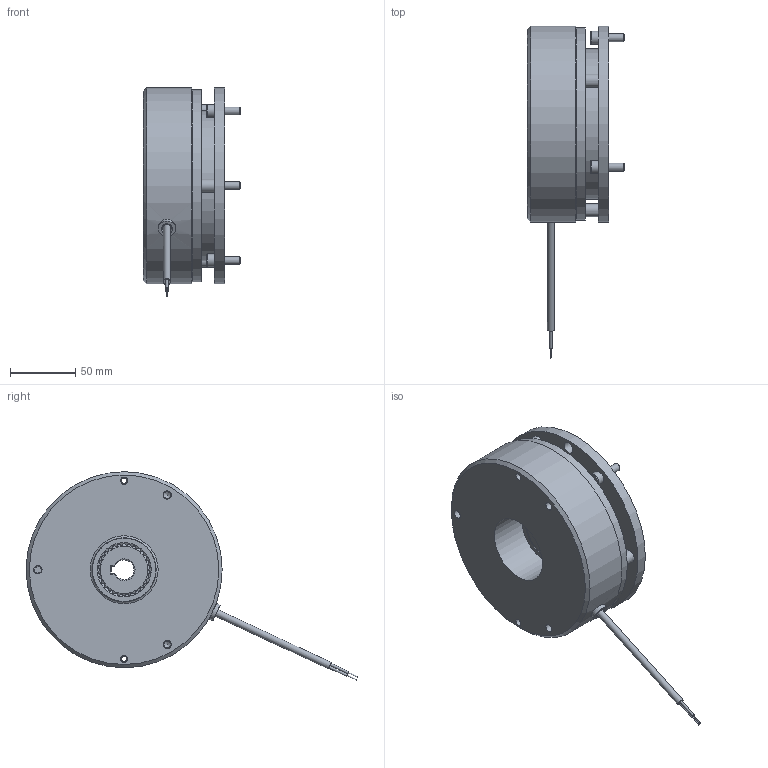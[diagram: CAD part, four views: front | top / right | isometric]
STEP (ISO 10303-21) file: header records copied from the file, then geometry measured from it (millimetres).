
FILE_DESCRIPTION(/* description */ (''),/* implementation_level */ '2;1');
FILE_NAME(/* name */ 'C:\SapWorkDir\Inventor\IP1\ConvertTempPath\5028675_IPT_000.ipt.stp',/* time_stamp */ '2020-09-16T16:08:59+02:00',/* author */ ('STRATE'),/* organization */ (''),/* preprocessor_version */ 'ST-DEVELOPER v17',/* originating_system */ 'Autodesk Inventor 2018',/* authorisation */ '');
FILE_SCHEMA (('AUTOMOTIVE_DESIGN { 1 0 10303 214 3 1 1 }'));
Length unit declared in the file: millimetre
Products named in the file (1): 5028675
Bounding box: 74.4 x 253.85 x 159.53 mm (x, y, z)
Volume: 918073.6 mm3; surface area: 147812.1 mm2
Topology: 2 solids, 2 shells, 503 faces, 1429 edges, 964 vertices
Faces by surface type: cylinder 304, plane 114, cone 65, torus 20
Full cylindrical faces by diameter (mm): 1 x2, 1.85 x2, 4.134 x2, 5.3 x1, 5.387 x3, 5.4 x2, 6 x6, 6.4 x6, 6.6 x7, 8.3 x2, 9.2 x2, 10 x6, 10.8 x6, 11.3 x3, 13.2 x1, 52 x3, 69.5 x2, 70.1 x2, 115 x1, 147 x1, 150 x2
Entity records: 18538 total; most frequent: CARTESIAN_POINT 4934, ORIENTED_EDGE 2850, DIRECTION 2629, EDGE_CURVE 1425, AXIS2_PLACEMENT_3D 1079, VERTEX_POINT 964, EDGE_LOOP 587, CIRCLE 551
